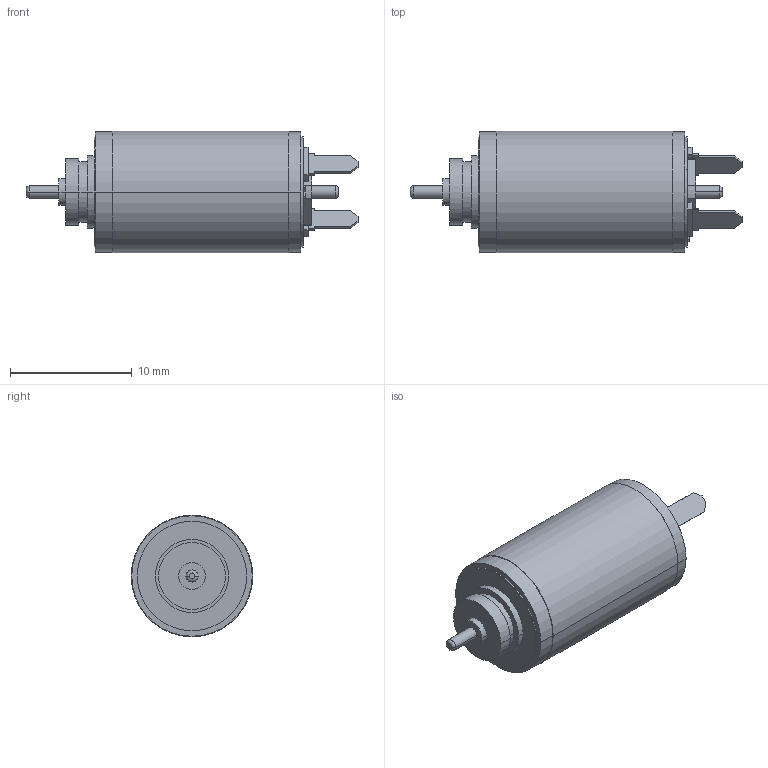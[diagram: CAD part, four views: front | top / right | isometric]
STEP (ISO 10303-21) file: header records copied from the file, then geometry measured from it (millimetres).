
FILE_DESCRIPTION((''),'2;1');
FILE_NAME('256085_RE10_EB_0_75W_SL_2WE','2016-10-07T',('mmagvisi'),(''),'CREO PARAMETRIC BY PTC INC, 2016050','CREO PARAMETRIC BY PTC INC, 2016050','');
FILE_SCHEMA(('CONFIG_CONTROL_DESIGN'));
Length unit declared in the file: millimetre
Products named in the file (1): 256085_RE10_EB_0_75W_SL_2WE
Bounding box: 27.3 x 10 x 10 mm (x, y, z)
Volume: 1396.6 mm3; surface area: 917.4 mm2
Topology: 1 solids, 1 shells, 125 faces, 298 edges, 194 vertices
Faces by surface type: plane 80, cylinder 37, bspline 4, torus 4
Entity records: 4689 total; most frequent: CARTESIAN_POINT 701, DIRECTION 632, ORIENTED_EDGE 596, PRESENTATION_STYLE_ASSIGNMENT 299, STYLED_ITEM 299, CURVE_STYLE 298, EDGE_CURVE 298, AXIS2_PLACEMENT_3D 213
